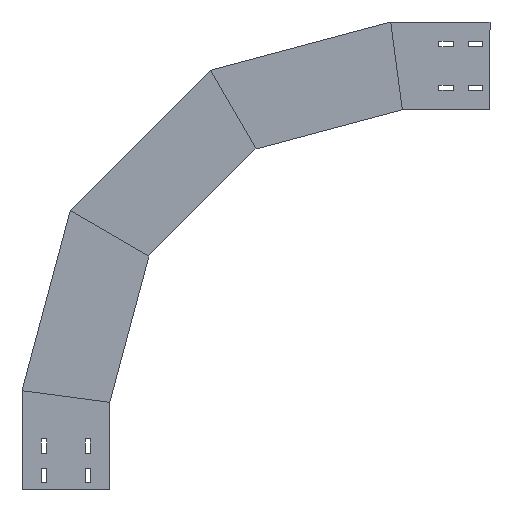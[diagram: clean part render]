
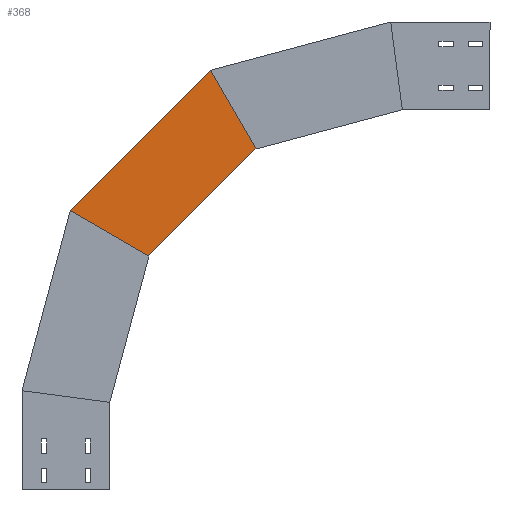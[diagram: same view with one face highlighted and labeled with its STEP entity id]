
A CAD part, left-side view. The second image highlights one B-rep face of the part: STEP entity #368.
In plain terms, the highlighted planar face has unit normal (-1, 0, 0) as drawn and (1, 0, 0) by its records, which use the part's own axes.
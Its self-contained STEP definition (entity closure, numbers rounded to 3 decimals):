
#55 = FACE_OUTER_BOUND ( 'NONE', #645, .T. ) ;
#123 = VERTEX_POINT ( 'NONE', #2270 ) ;
#133 = LINE ( 'NONE', #760, #1065 ) ;
#163 = ORIENTED_EDGE ( 'NONE', *, *, #2086, .F. ) ;
#205 = VECTOR ( 'NONE', #1897, 1000. ) ;
#231 = DIRECTION ( 'NONE',  ( 0., 0., -1. ) ) ;
#238 = EDGE_CURVE ( 'NONE', #901, #123, #1163, .T. ) ;
#281 = PLANE ( 'NONE',  #751 ) ;
#295 = CARTESIAN_POINT ( 'NONE',  ( 0., -172.529, 717.802 ) ) ;
#368 = ADVANCED_FACE ( 'NONE', ( #55 ), #281, .T. ) ;
#384 = LINE ( 'NONE', #1145, #205 ) ;
#411 = DIRECTION ( 'NONE',  ( 0., -0.707, 0.707 ) ) ;
#497 = EDGE_CURVE ( 'NONE', #1023, #829, #2009, .T. ) ;
#645 = EDGE_LOOP ( 'NONE', ( #1133, #1471, #1094, #163 ) ) ;
#751 = AXIS2_PLACEMENT_3D ( 'NONE', #1949, #1010, #231 ) ;
#760 = CARTESIAN_POINT ( 'NONE',  ( 0., -129.979, 363.834 ) ) ;
#829 = VERTEX_POINT ( 'NONE', #295 ) ;
#901 = VERTEX_POINT ( 'NONE', #1457 ) ;
#945 = CARTESIAN_POINT ( 'NONE',  ( 0., 67.452, 477.821 ) ) ;
#1010 = DIRECTION ( 'NONE',  ( 1., 0., 0. ) ) ;
#1023 = VERTEX_POINT ( 'NONE', #945 ) ;
#1065 = VECTOR ( 'NONE', #1112, 1000. ) ;
#1094 = ORIENTED_EDGE ( 'NONE', *, *, #238, .F. ) ;
#1112 = DIRECTION ( 'NONE',  ( 0., -0.866, -0.5 ) ) ;
#1133 = ORIENTED_EDGE ( 'NONE', *, *, #497, .T. ) ;
#1145 = CARTESIAN_POINT ( 'NONE',  ( 0., -289.426, 515.33 ) ) ;
#1163 = LINE ( 'NONE', #2282, #2243 ) ;
#1457 = CARTESIAN_POINT ( 'NONE',  ( 0., -67.034, 400.175 ) ) ;
#1471 = ORIENTED_EDGE ( 'NONE', *, *, #1562, .T. ) ;
#1562 = EDGE_CURVE ( 'NONE', #829, #123, #384, .T. ) ;
#1825 = CARTESIAN_POINT ( 'NONE',  ( 0., 70.365, 474.908 ) ) ;
#1859 = VECTOR ( 'NONE', #2031, 1000. ) ;
#1897 = DIRECTION ( 'NONE',  ( 0., -0.5, -0.866 ) ) ;
#1949 = CARTESIAN_POINT ( 'NONE',  ( 0., -35.701, 368.842 ) ) ;
#2009 = LINE ( 'NONE', #1825, #1859 ) ;
#2031 = DIRECTION ( 'NONE',  ( 0., -0.707, 0.707 ) ) ;
#2086 = EDGE_CURVE ( 'NONE', #1023, #901, #133, .T. ) ;
#2243 = VECTOR ( 'NONE', #411, 1000. ) ;
#2270 = CARTESIAN_POINT ( 'NONE',  ( 0., -250.175, 583.315 ) ) ;
#2282 = CARTESIAN_POINT ( 'NONE',  ( 0., -35.701, 368.842 ) ) ;
